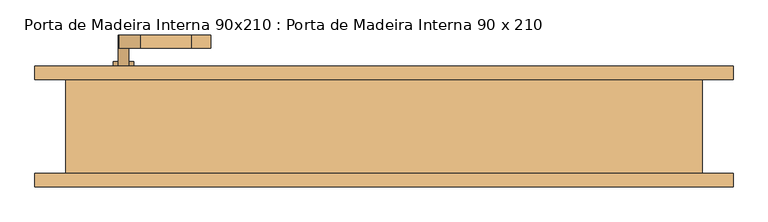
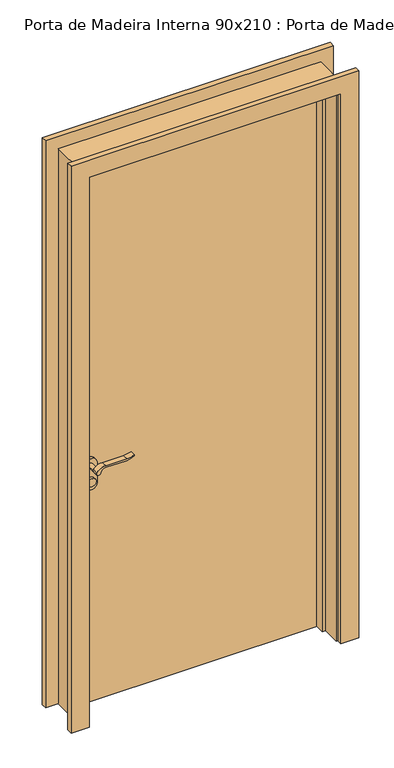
"""IFC4 building model written with IfcOpenShell, lengths in millimetres: door geometry, Porta de Madeira Interna 90x210 : Porta de Madeira Interna 90 x 210."""

from ifc_helpers import new_model, si_unit, point, frame, frame_2d, origin, origin_with_axes, place, context, project, spatial, polyline, circle_curve, trimmed, segment, composite_curve, outline, extrude, faceted_brep, source, transform, mapped, element, save


def porta_de_madeira_interna_90x210_porta_de_madeira_interna_90_f331fdd0(model_context):
    return source(origin(), model_context, "Body", "SolidModel", [
        extrude(outline(composite_curve([segment(trimmed(circle_curve(frame_2d((854.4, -389.0)), 15.0), [point((854.4, -374.0))], [point((854.4, -404.0))], False, "CARTESIAN"), True, "CONTINUOUS"), segment(trimmed(circle_curve(frame_2d((854.4, -389.0)), 15.0), [point((854.4, -404.0))], [point((854.4, -374.0))], False, "CARTESIAN"), True, "CONTINUOUS")], self_intersect=False)), frame((0.0, 3.975, 0.0), z_axis=(0.0, 1.0, 0.0), x_axis=(0.0, 0.0, 1.0)), (0.0, 0.0, 1.0), 10.0),
        extrude(outline(composite_curve([segment(trimmed(circle_curve(frame_2d((854.4, -389.0)), 15.0), [point((854.4, -374.0))], [point((854.4, -404.0))], False, "CARTESIAN"), True, "CONTINUOUS"), segment(trimmed(circle_curve(frame_2d((854.4, -389.0)), 15.0), [point((854.4, -404.0))], [point((854.4, -374.0))], False, "CARTESIAN"), True, "CONTINUOUS")], self_intersect=False)), frame((0.0, 83.975, 0.0), z_axis=(0.0, 1.0, 0.0), x_axis=(0.0, 0.0, 1.0)), (0.0, 0.0, 1.0), 10.0),
        extrude(outline(composite_curve([segment(trimmed(circle_curve(frame_2d((914.4, -389.0)), 8.0), [point((919.0523287, -395.5081363))], [point((914.4, -381.0))], False, "CARTESIAN"), True, "CONTINUOUS"), segment(trimmed(circle_curve(frame_2d((909.2738613, -363.6138099)), 18.1261387), [point((914.4, -381.0))], [point((927.4, -363.6138099))], True, "CARTESIAN"), True, "CONTINUOUS"), segment(polyline([(927.4, -363.6138099), (927.4, -287.3564091)]), True, "CONTINUOUS"), segment(trimmed(circle_curve(frame_2d((986.6709207, -290.9396612)), 59.3791355), [point((927.4, -287.3564091))], [point((936.6135558, -259.0))], False, "CARTESIAN"), True, "CONTINUOUS"), segment(polyline([(936.6135558, -259.0), (939.4, -259.0)]), True, "CONTINUOUS"), segment(trimmed(circle_curve(frame_2d((1017.6850638, -287.4227909)), 83.2850902), [point((939.4, -259.0))], [point((934.4, -287.3564091))], True, "CARTESIAN"), True, "CONTINUOUS"), segment(polyline([(934.4, -287.3564091), (934.4, -363.6325667)]), True, "CONTINUOUS"), segment(trimmed(circle_curve(frame_2d((897.1555521, -365.3324871)), 37.2832219), [point((934.4, -363.6325667))], [point((919.0523287, -395.5081363))], False, "CARTESIAN"), True, "CONTINUOUS")], self_intersect=False)), frame((0.0, -36.025, 0.0), z_axis=(0.0, 1.0, 0.0), x_axis=(0.0, 0.0, 1.0)), (0.0, 0.0, 1.0), 20.0),
        extrude(outline(composite_curve([segment(trimmed(circle_curve(frame_2d((909.2738682, -363.6138122)), 18.1261318), [point((914.3999903, -381.0))], [point((927.4, -363.6138122))], True, "CARTESIAN"), True, "CONTINUOUS"), segment(polyline([(927.4, -363.6138122), (927.4, -287.3564091)]), True, "CONTINUOUS"), segment(trimmed(circle_curve(frame_2d((986.6709207, -290.9396612)), 59.3791355), [point((927.4, -287.3564091))], [point((936.6135558, -259.0))], False, "CARTESIAN"), True, "CONTINUOUS"), segment(polyline([(936.6135558, -259.0), (939.4, -259.0)]), True, "CONTINUOUS"), segment(trimmed(circle_curve(frame_2d((1017.6850638, -287.4227909)), 83.2850902), [point((939.4, -259.0))], [point((934.4, -287.3564091))], True, "CARTESIAN"), True, "CONTINUOUS"), segment(polyline([(934.4, -287.3564091), (934.4, -363.6325667)]), True, "CONTINUOUS"), segment(trimmed(circle_curve(frame_2d((897.1555521, -365.3324871)), 37.2832219), [point((934.4, -363.6325667))], [point((919.0523287, -395.5081363))], False, "CARTESIAN"), True, "CONTINUOUS"), segment(trimmed(circle_curve(frame_2d((914.4, -389.0)), 8.0), [point((919.0523287, -395.5081363))], [point((914.3999903, -381.0))], False, "CARTESIAN"), True, "CONTINUOUS")], self_intersect=False)), frame((0.0, 113.975, 0.0), z_axis=(0.0, 1.0, 0.0), x_axis=(0.0, 0.0, 1.0)), (0.0, 0.0, 1.0), 20.0),
        extrude(outline(composite_curve([segment(trimmed(circle_curve(frame_2d((914.4, -389.0)), 8.0), [point((914.4, -381.0))], [point((914.4, -397.0))], False, "CARTESIAN"), True, "CONTINUOUS"), segment(trimmed(circle_curve(frame_2d((914.4, -389.0)), 8.0), [point((914.4, -397.0))], [point((914.4, -381.0))], False, "CARTESIAN"), True, "CONTINUOUS")], self_intersect=False)), frame((0.0, -16.025, 0.0), z_axis=(0.0, 1.0, 0.0), x_axis=(0.0, 0.0, 1.0)), (0.0, 0.0, 1.0), 30.0),
        extrude(outline(composite_curve([segment(trimmed(circle_curve(frame_2d((914.4, -389.0)), 8.0), [point((914.4, -381.0))], [point((914.4, -397.0))], False, "CARTESIAN"), True, "CONTINUOUS"), segment(trimmed(circle_curve(frame_2d((914.4, -389.0)), 8.0), [point((914.4, -397.0))], [point((914.4, -381.0))], False, "CARTESIAN"), True, "CONTINUOUS")], self_intersect=False)), frame((0.0, 83.975, 0.0), z_axis=(0.0, 1.0, 0.0), x_axis=(0.0, 0.0, 1.0)), (0.0, 0.0, 1.0), 30.0),
        extrude(outline(composite_curve([segment(trimmed(circle_curve(frame_2d((844.4, -389.0)), 25.0), [point((844.4, -414.0))], [point((844.4, -364.0))], False, "CARTESIAN"), True, "CONTINUOUS"), segment(polyline([(844.4, -364.0), (914.4, -364.0)]), True, "CONTINUOUS"), segment(trimmed(circle_curve(frame_2d((914.4, -389.0)), 25.0), [point((914.4, -364.0))], [point((914.4, -414.0))], False, "CARTESIAN"), True, "CONTINUOUS"), segment(polyline([(914.4, -414.0), (844.4, -414.0)]), True, "CONTINUOUS")], self_intersect=False)), frame((0.0, 13.975, 0.0), z_axis=(0.0, 1.0, 0.0), x_axis=(0.0, 0.0, 1.0)), (0.0, 0.0, 1.0), 10.0),
        extrude(outline(composite_curve([segment(trimmed(circle_curve(frame_2d((844.4, -389.0)), 25.0), [point((844.4, -414.0))], [point((844.4, -364.0))], False, "CARTESIAN"), True, "CONTINUOUS"), segment(polyline([(844.4, -364.0), (914.4, -364.0)]), True, "CONTINUOUS"), segment(trimmed(circle_curve(frame_2d((914.4, -389.0)), 25.0), [point((914.4, -364.0))], [point((914.4, -414.0))], False, "CARTESIAN"), True, "CONTINUOUS"), segment(polyline([(914.4, -414.0), (844.4, -414.0)]), True, "CONTINUOUS")], self_intersect=False)), frame((0.0, 73.975, 0.0), z_axis=(0.0, 1.0, 0.0), x_axis=(0.0, 0.0, 1.0)), (0.0, 0.0, 1.0), 10.0),
        extrude(outline(polyline([(450.0, 26.825), (-450.0, 26.825), (-450.0, 66.825), (450.0, 66.825), (450.0, 26.825)])), origin_with_axes(), (0.0, 0.0, 1.0), 2100.0),
        faceted_brep([(475.0, 66.825, 0.0), (475.0, -73.175, 0.0), (450.0, -73.175, 0.0), (450.0, -8.1, 0.0), (437.3, -8.1, 0.0), (437.3, 26.825, 0.0), (450.0, 26.825, 0.0), (450.0, 66.825, 0.0), (475.0, 66.825, 2125.0), (475.0, -73.175, 2125.0), (-475.0, -73.175, 2125.0), (-475.0, -73.175, 0.0), (-450.0, -73.175, 0.0), (-450.0, -73.175, 2100.0), (450.0, -73.175, 2100.0), (450.0, -8.1, 2100.0), (-450.0, -8.1, 2100.0), (-450.0, -8.1, 0.0), (-437.3, -8.1, 0.0), (-437.3, -8.1, 2087.3), (437.3, -8.1, 2087.3), (437.3, 26.825, 2087.3), (-437.3, 26.825, 2087.3), (-437.3, 26.825, 0.0), (-450.0, 26.825, 0.0), (-450.0, 26.825, 2100.0), (450.0, 26.825, 2100.0), (450.0, 66.825, 2100.0), (-450.0, 66.825, 2100.0), (-450.0, 66.825, 0.0), (-475.0, 66.825, 0.0), (-475.0, 66.825, 2125.0)], [[[0, 1, 2, 3, 4, 5, 6, 7]], [[1, 0, 8, 9]], [[2, 1, 9, 10, 11, 12, 13, 14]], [[3, 2, 14, 15]], [[4, 3, 15, 16, 17, 18, 19, 20]], [[5, 4, 20, 21]], [[6, 5, 21, 22, 23, 24, 25, 26]], [[7, 6, 26, 27]], [[0, 7, 27, 28, 29, 30, 31, 8]], [[9, 8, 31, 10]], [[15, 14, 13, 16]], [[21, 20, 19, 22]], [[27, 26, 25, 28]], [[30, 29, 24, 23, 18, 17, 12, 11]], [[10, 31, 30, 11]], [[16, 13, 12, 17]], [[22, 19, 18, 23]], [[28, 25, 24, 29]]]),
        extrude(outline(polyline([(0.0, 456.35), (0.0, 521.35), (2171.35, 521.35), (2171.35, -521.35), (0.0, -521.35), (0.0, -456.35), (2106.35, -456.35), (2106.35, 456.35), (0.0, 456.35)])), frame((0.0, -93.175, 0.0), z_axis=(0.0, 1.0, 0.0), x_axis=(0.0, 0.0, 1.0)), (0.0, 0.0, 1.0), 20.0),
        extrude(outline(polyline([(0.0, 456.35), (0.0, 521.35), (2171.35, 521.35), (2171.35, -521.35), (0.0, -521.35), (0.0, -456.35), (2106.35, -456.35), (2106.35, 456.35), (0.0, 456.35)])), frame((0.0, 66.825, 0.0), z_axis=(0.0, 1.0, 0.0), x_axis=(0.0, 0.0, 1.0)), (0.0, 0.0, 1.0), 20.0),
    ])


if __name__ == "__main__":
    model = new_model("IFC4")
    model_context = context("Model", 3, world=origin())
    ifc_project = project(units=[si_unit("LENGTHUNIT", "METRE", prefix="MILLI")], contexts=[model_context])
    site = spatial("IfcSite", under=ifc_project)
    building = spatial("IfcBuilding", under=site)
    placement = place(None, origin())
    porta_de_madeira_interna_90x210_porta_de_madeira_interna_90_shape = porta_de_madeira_interna_90x210_porta_de_madeira_interna_90_f331fdd0(model_context)
    element("IfcDoor", 1, ObjectType="Porta de Madeira Interna 90x210 : Porta de Madeira Interna 90 x 210", at=placement, inside=building, context=model_context, shape_type="MappedRepresentation", body=[
        mapped(porta_de_madeira_interna_90x210_porta_de_madeira_interna_90_shape, transform((0.0, 0.0, 0.0), x_axis=(1.0, 0.0, 0.0), y_axis=(0.0, 1.0, 0.0), z_axis=(0.0, 0.0, 1.0))),
    ])
    save(model, "model.ifc")
